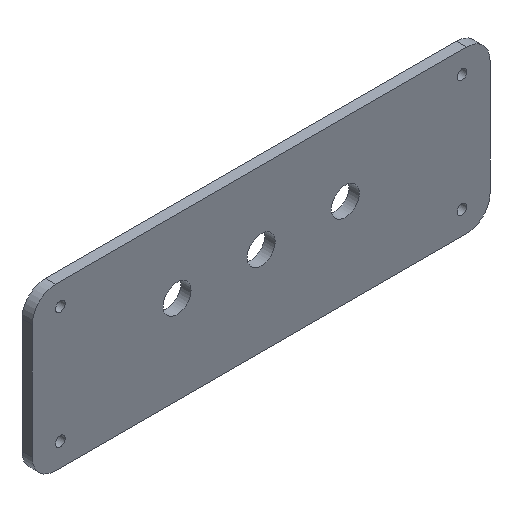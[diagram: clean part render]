
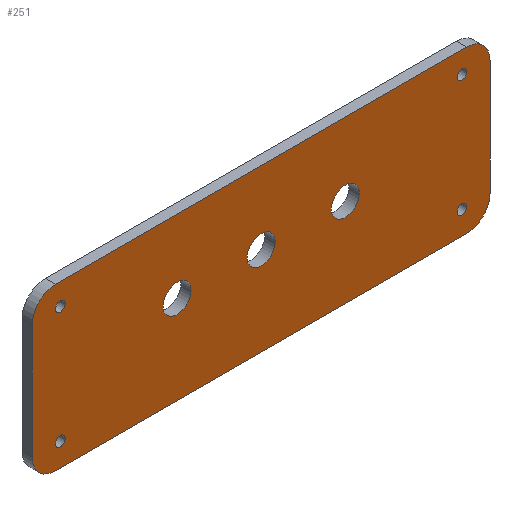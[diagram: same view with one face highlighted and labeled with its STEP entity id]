
A CAD part, isometric view. The second image highlights one B-rep face of the part: STEP entity #251.
In plain terms, the highlighted planar face has unit normal (0, -1, 0).
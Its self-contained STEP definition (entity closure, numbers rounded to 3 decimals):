
#22 = VERTEX_POINT('',#23);
#23 = CARTESIAN_POINT('',(-88.,-260.2,179.2));
#31 = EDGE_CURVE('',#22,#32,#34,.T.);
#32 = VERTEX_POINT('',#33);
#33 = CARTESIAN_POINT('',(88.,-260.2,179.2));
#34 = LINE('',#35,#36);
#35 = CARTESIAN_POINT('',(-88.,-260.2,179.2));
#36 = VECTOR('',#37,1.);
#37 = DIRECTION('',(1.,0.,-0.));
#71 = VERTEX_POINT('',#72);
#72 = CARTESIAN_POINT('',(-98.,-260.2,169.2));
#78 = EDGE_CURVE('',#71,#22,#79,.T.);
#79 = CIRCLE('',#80,10.);
#80 = AXIS2_PLACEMENT_3D('',#81,#82,#83);
#81 = CARTESIAN_POINT('',(-88.,-260.2,169.2));
#82 = DIRECTION('',(0.,1.,0.));
#83 = DIRECTION('',(0.,-0.,1.));
#232 = EDGE_CURVE('',#32,#233,#235,.T.);
#233 = VERTEX_POINT('',#234);
#234 = CARTESIAN_POINT('',(98.,-260.2,169.2));
#235 = CIRCLE('',#236,10.);
#236 = AXIS2_PLACEMENT_3D('',#237,#238,#239);
#237 = CARTESIAN_POINT('',(88.,-260.2,169.2));
#238 = DIRECTION('',(0.,1.,0.));
#239 = DIRECTION('',(0.,-0.,1.));
#251 = ADVANCED_FACE('',(#252,#297,#308,#319,#330,#341,#352,#363),#374,
  .T.);
#252 = FACE_BOUND('',#253,.T.);
#253 = EDGE_LOOP('',(#254,#264,#273,#279,#280,#281,#282,#290));
#254 = ORIENTED_EDGE('',*,*,#255,.T.);
#255 = EDGE_CURVE('',#256,#258,#260,.T.);
#256 = VERTEX_POINT('',#257);
#257 = CARTESIAN_POINT('',(-88.,-260.2,110.));
#258 = VERTEX_POINT('',#259);
#259 = CARTESIAN_POINT('',(88.,-260.2,110.));
#260 = LINE('',#261,#262);
#261 = CARTESIAN_POINT('',(-88.,-260.2,110.));
#262 = VECTOR('',#263,1.);
#263 = DIRECTION('',(1.,0.,-0.));
#264 = ORIENTED_EDGE('',*,*,#265,.F.);
#265 = EDGE_CURVE('',#266,#258,#268,.T.);
#266 = VERTEX_POINT('',#267);
#267 = CARTESIAN_POINT('',(98.,-260.2,120.));
#268 = CIRCLE('',#269,10.);
#269 = AXIS2_PLACEMENT_3D('',#270,#271,#272);
#270 = CARTESIAN_POINT('',(88.,-260.2,120.));
#271 = DIRECTION('',(0.,1.,0.));
#272 = DIRECTION('',(0.,-0.,1.));
#273 = ORIENTED_EDGE('',*,*,#274,.T.);
#274 = EDGE_CURVE('',#266,#233,#275,.T.);
#275 = LINE('',#276,#277);
#276 = CARTESIAN_POINT('',(98.,-260.2,120.));
#277 = VECTOR('',#278,1.);
#278 = DIRECTION('',(0.,0.,1.));
#279 = ORIENTED_EDGE('',*,*,#232,.F.);
#280 = ORIENTED_EDGE('',*,*,#31,.F.);
#281 = ORIENTED_EDGE('',*,*,#78,.F.);
#282 = ORIENTED_EDGE('',*,*,#283,.F.);
#283 = EDGE_CURVE('',#284,#71,#286,.T.);
#284 = VERTEX_POINT('',#285);
#285 = CARTESIAN_POINT('',(-98.,-260.2,120.));
#286 = LINE('',#287,#288);
#287 = CARTESIAN_POINT('',(-98.,-260.2,120.));
#288 = VECTOR('',#289,1.);
#289 = DIRECTION('',(0.,0.,1.));
#290 = ORIENTED_EDGE('',*,*,#291,.F.);
#291 = EDGE_CURVE('',#256,#284,#292,.T.);
#292 = CIRCLE('',#293,10.);
#293 = AXIS2_PLACEMENT_3D('',#294,#295,#296);
#294 = CARTESIAN_POINT('',(-88.,-260.2,120.));
#295 = DIRECTION('',(0.,1.,0.));
#296 = DIRECTION('',(0.,-0.,1.));
#297 = FACE_BOUND('',#298,.T.);
#298 = EDGE_LOOP('',(#299));
#299 = ORIENTED_EDGE('',*,*,#300,.T.);
#300 = EDGE_CURVE('',#301,#301,#303,.T.);
#301 = VERTEX_POINT('',#302);
#302 = CARTESIAN_POINT('',(-86.,-260.2,172.1));
#303 = CIRCLE('',#304,2.1);
#304 = AXIS2_PLACEMENT_3D('',#305,#306,#307);
#305 = CARTESIAN_POINT('',(-86.,-260.2,170.));
#306 = DIRECTION('',(0.,1.,0.));
#307 = DIRECTION('',(0.,-0.,1.));
#308 = FACE_BOUND('',#309,.T.);
#309 = EDGE_LOOP('',(#310));
#310 = ORIENTED_EDGE('',*,*,#311,.T.);
#311 = EDGE_CURVE('',#312,#312,#314,.T.);
#312 = VERTEX_POINT('',#313);
#313 = CARTESIAN_POINT('',(-36.,-260.2,154.));
#314 = CIRCLE('',#315,6.);
#315 = AXIS2_PLACEMENT_3D('',#316,#317,#318);
#316 = CARTESIAN_POINT('',(-36.,-260.2,148.));
#317 = DIRECTION('',(0.,1.,0.));
#318 = DIRECTION('',(0.,-0.,1.));
#319 = FACE_BOUND('',#320,.T.);
#320 = EDGE_LOOP('',(#321));
#321 = ORIENTED_EDGE('',*,*,#322,.T.);
#322 = EDGE_CURVE('',#323,#323,#325,.T.);
#323 = VERTEX_POINT('',#324);
#324 = CARTESIAN_POINT('',(-86.,-260.2,122.1));
#325 = CIRCLE('',#326,2.1);
#326 = AXIS2_PLACEMENT_3D('',#327,#328,#329);
#327 = CARTESIAN_POINT('',(-86.,-260.2,120.));
#328 = DIRECTION('',(0.,1.,0.));
#329 = DIRECTION('',(0.,-0.,1.));
#330 = FACE_BOUND('',#331,.T.);
#331 = EDGE_LOOP('',(#332));
#332 = ORIENTED_EDGE('',*,*,#333,.T.);
#333 = EDGE_CURVE('',#334,#334,#336,.T.);
#334 = VERTEX_POINT('',#335);
#335 = CARTESIAN_POINT('',(0.,-260.2,154.));
#336 = CIRCLE('',#337,6.);
#337 = AXIS2_PLACEMENT_3D('',#338,#339,#340);
#338 = CARTESIAN_POINT('',(0.,-260.2,148.));
#339 = DIRECTION('',(0.,1.,0.));
#340 = DIRECTION('',(0.,-0.,1.));
#341 = FACE_BOUND('',#342,.T.);
#342 = EDGE_LOOP('',(#343));
#343 = ORIENTED_EDGE('',*,*,#344,.T.);
#344 = EDGE_CURVE('',#345,#345,#347,.T.);
#345 = VERTEX_POINT('',#346);
#346 = CARTESIAN_POINT('',(36.,-260.2,154.));
#347 = CIRCLE('',#348,6.);
#348 = AXIS2_PLACEMENT_3D('',#349,#350,#351);
#349 = CARTESIAN_POINT('',(36.,-260.2,148.));
#350 = DIRECTION('',(0.,1.,0.));
#351 = DIRECTION('',(0.,-0.,1.));
#352 = FACE_BOUND('',#353,.T.);
#353 = EDGE_LOOP('',(#354));
#354 = ORIENTED_EDGE('',*,*,#355,.T.);
#355 = EDGE_CURVE('',#356,#356,#358,.T.);
#356 = VERTEX_POINT('',#357);
#357 = CARTESIAN_POINT('',(86.,-260.2,172.1));
#358 = CIRCLE('',#359,2.1);
#359 = AXIS2_PLACEMENT_3D('',#360,#361,#362);
#360 = CARTESIAN_POINT('',(86.,-260.2,170.));
#361 = DIRECTION('',(0.,1.,0.));
#362 = DIRECTION('',(0.,-0.,1.));
#363 = FACE_BOUND('',#364,.T.);
#364 = EDGE_LOOP('',(#365));
#365 = ORIENTED_EDGE('',*,*,#366,.T.);
#366 = EDGE_CURVE('',#367,#367,#369,.T.);
#367 = VERTEX_POINT('',#368);
#368 = CARTESIAN_POINT('',(86.,-260.2,122.1));
#369 = CIRCLE('',#370,2.1);
#370 = AXIS2_PLACEMENT_3D('',#371,#372,#373);
#371 = CARTESIAN_POINT('',(86.,-260.2,120.));
#372 = DIRECTION('',(0.,1.,0.));
#373 = DIRECTION('',(0.,-0.,1.));
#374 = PLANE('',#375);
#375 = AXIS2_PLACEMENT_3D('',#376,#377,#378);
#376 = CARTESIAN_POINT('',(0.,-260.2,144.6));
#377 = DIRECTION('',(-0.,-1.,-0.));
#378 = DIRECTION('',(0.,0.,-1.));
